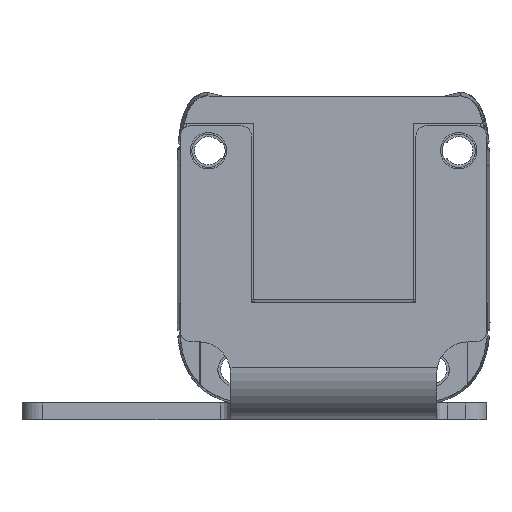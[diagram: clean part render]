
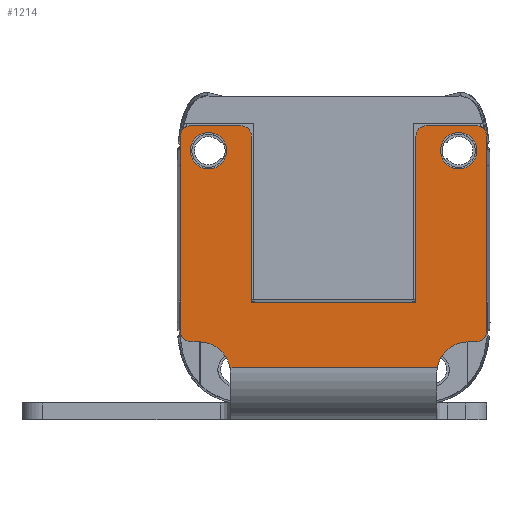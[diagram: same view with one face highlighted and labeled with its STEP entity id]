
A CAD part, front view. The second image highlights one B-rep face of the part: STEP entity #1214.
In plain terms, the highlighted planar face has unit normal (0, -1, 0).
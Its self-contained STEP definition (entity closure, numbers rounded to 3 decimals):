
#1214=ADVANCED_FACE('',(#1904,#1905,#1906),#1492,.T.);
#1492=PLANE('',#9447);
#1797=CIRCLE('',#9437,3.);
#1798=CIRCLE('',#9438,1.);
#1799=CIRCLE('',#9439,1.);
#1800=CIRCLE('',#9440,1.);
#1801=CIRCLE('',#9441,1.);
#1802=CIRCLE('',#9442,1.);
#1803=CIRCLE('',#9443,1.);
#1804=CIRCLE('',#9444,3.);
#1805=CIRCLE('',#9445,1.75);
#1806=CIRCLE('',#9446,1.75);
#1904=FACE_BOUND('',#2370,.T.);
#1905=FACE_BOUND('',#2371,.T.);
#1906=FACE_BOUND('',#2372,.T.);
#2370=EDGE_LOOP('',(#4747,#4748,#4749,#4750,#4751,#4752,#4753,#4754,#4755,
#4756,#4757,#4758,#4759,#4760,#4761,#4762,#4763,#4764));
#2371=EDGE_LOOP('',(#4765));
#2372=EDGE_LOOP('',(#4766));
#4747=ORIENTED_EDGE('',*,*,#6984,.T.);
#4748=ORIENTED_EDGE('',*,*,#6985,.F.);
#4749=ORIENTED_EDGE('',*,*,#6986,.T.);
#4750=ORIENTED_EDGE('',*,*,#6987,.T.);
#4751=ORIENTED_EDGE('',*,*,#6988,.T.);
#4752=ORIENTED_EDGE('',*,*,#6989,.T.);
#4753=ORIENTED_EDGE('',*,*,#6990,.T.);
#4754=ORIENTED_EDGE('',*,*,#6991,.F.);
#4755=ORIENTED_EDGE('',*,*,#6992,.F.);
#4756=ORIENTED_EDGE('',*,*,#6993,.T.);
#4757=ORIENTED_EDGE('',*,*,#6994,.T.);
#4758=ORIENTED_EDGE('',*,*,#6995,.F.);
#4759=ORIENTED_EDGE('',*,*,#6996,.T.);
#4760=ORIENTED_EDGE('',*,*,#6997,.F.);
#4761=ORIENTED_EDGE('',*,*,#6998,.T.);
#4762=ORIENTED_EDGE('',*,*,#6999,.T.);
#4763=ORIENTED_EDGE('',*,*,#7000,.T.);
#4764=ORIENTED_EDGE('',*,*,#7001,.T.);
#4765=ORIENTED_EDGE('',*,*,#7002,.F.);
#4766=ORIENTED_EDGE('',*,*,#7003,.T.);
#5758=VERTEX_POINT('',#15443);
#5759=VERTEX_POINT('',#15444);
#5760=VERTEX_POINT('',#15446);
#5761=VERTEX_POINT('',#15448);
#5762=VERTEX_POINT('',#15450);
#5763=VERTEX_POINT('',#15452);
#5764=VERTEX_POINT('',#15454);
#5765=VERTEX_POINT('',#15456);
#5766=VERTEX_POINT('',#15458);
#5767=VERTEX_POINT('',#15460);
#5768=VERTEX_POINT('',#15462);
#5769=VERTEX_POINT('',#15464);
#5770=VERTEX_POINT('',#15466);
#5771=VERTEX_POINT('',#15468);
#5772=VERTEX_POINT('',#15470);
#5773=VERTEX_POINT('',#15472);
#5774=VERTEX_POINT('',#15474);
#5775=VERTEX_POINT('',#15476);
#5776=VERTEX_POINT('',#15479);
#5777=VERTEX_POINT('',#15481);
#6984=EDGE_CURVE('',#5758,#5759,#1797,.T.);
#6985=EDGE_CURVE('',#5760,#5759,#7863,.T.);
#6986=EDGE_CURVE('',#5760,#5761,#1798,.T.);
#6987=EDGE_CURVE('',#5761,#5762,#7864,.T.);
#6988=EDGE_CURVE('',#5762,#5763,#1799,.T.);
#6989=EDGE_CURVE('',#5763,#5764,#7865,.T.);
#6990=EDGE_CURVE('',#5764,#5765,#1800,.T.);
#6991=EDGE_CURVE('',#5766,#5765,#7866,.T.);
#6992=EDGE_CURVE('',#5767,#5766,#7867,.T.);
#6993=EDGE_CURVE('',#5767,#5768,#7868,.T.);
#6994=EDGE_CURVE('',#5768,#5769,#1801,.T.);
#6995=EDGE_CURVE('',#5770,#5769,#7869,.T.);
#6996=EDGE_CURVE('',#5770,#5771,#1802,.T.);
#6997=EDGE_CURVE('',#5772,#5771,#7870,.T.);
#6998=EDGE_CURVE('',#5772,#5773,#1803,.T.);
#6999=EDGE_CURVE('',#5773,#5774,#7871,.T.);
#7000=EDGE_CURVE('',#5774,#5775,#1804,.T.);
#7001=EDGE_CURVE('',#5775,#5758,#7872,.T.);
#7002=EDGE_CURVE('',#5776,#5776,#1805,.T.);
#7003=EDGE_CURVE('',#5777,#5777,#1806,.T.);
#7863=LINE('',#15445,#8719);
#7864=LINE('',#15449,#8720);
#7865=LINE('',#15453,#8721);
#7866=LINE('',#15457,#8722);
#7867=LINE('',#15459,#8723);
#7868=LINE('',#15461,#8724);
#7869=LINE('',#15465,#8725);
#7870=LINE('',#15469,#8726);
#7871=LINE('',#15473,#8727);
#7872=LINE('',#15477,#8728);
#8719=VECTOR('',#11638,1.);
#8720=VECTOR('',#11641,1.);
#8721=VECTOR('',#11644,1.);
#8722=VECTOR('',#11647,1.);
#8723=VECTOR('',#11648,1.);
#8724=VECTOR('',#11649,1.);
#8725=VECTOR('',#11652,1.);
#8726=VECTOR('',#11655,1.);
#8727=VECTOR('',#11658,1.);
#8728=VECTOR('',#11661,1.);
#9437=AXIS2_PLACEMENT_3D('',#15442,#11636,#11637);
#9438=AXIS2_PLACEMENT_3D('',#15447,#11639,#11640);
#9439=AXIS2_PLACEMENT_3D('',#15451,#11642,#11643);
#9440=AXIS2_PLACEMENT_3D('',#15455,#11645,#11646);
#9441=AXIS2_PLACEMENT_3D('',#15463,#11650,#11651);
#9442=AXIS2_PLACEMENT_3D('',#15467,#11653,#11654);
#9443=AXIS2_PLACEMENT_3D('',#15471,#11656,#11657);
#9444=AXIS2_PLACEMENT_3D('',#15475,#11659,#11660);
#9445=AXIS2_PLACEMENT_3D('',#15478,#11662,#11663);
#9446=AXIS2_PLACEMENT_3D('',#15480,#11664,#11665);
#9447=AXIS2_PLACEMENT_3D('',#15482,#11666,#11667);
#11636=DIRECTION('',(0.,1.,0.));
#11637=DIRECTION('',(0.,0.,1.));
#11638=DIRECTION('',(-1.,0.,0.));
#11639=DIRECTION('',(0.,-1.,0.));
#11640=DIRECTION('',(0.,0.,1.));
#11641=DIRECTION('',(0.,0.,1.));
#11642=DIRECTION('',(0.,-1.,0.));
#11643=DIRECTION('',(0.,0.,-1.));
#11644=DIRECTION('',(-1.,0.,0.));
#11645=DIRECTION('',(0.,-1.,0.));
#11646=DIRECTION('',(0.,0.,-1.));
#11647=DIRECTION('',(0.,0.,1.));
#11648=DIRECTION('',(1.,0.,0.));
#11649=DIRECTION('',(0.,0.,1.));
#11650=DIRECTION('',(0.,-1.,0.));
#11651=DIRECTION('',(0.,0.,1.));
#11652=DIRECTION('',(1.,0.,0.));
#11653=DIRECTION('',(0.,-1.,0.));
#11654=DIRECTION('',(0.,0.,1.));
#11655=DIRECTION('',(0.,0.,1.));
#11656=DIRECTION('',(0.,-1.,0.));
#11657=DIRECTION('',(0.,0.,1.));
#11658=DIRECTION('',(1.,0.,0.));
#11659=DIRECTION('',(0.,1.,0.));
#11660=DIRECTION('',(0.,0.,1.));
#11661=DIRECTION('',(1.,0.,0.));
#11662=DIRECTION('',(0.,-1.,0.));
#11663=DIRECTION('',(0.,0.,1.));
#11664=DIRECTION('',(0.,1.,0.));
#11665=DIRECTION('',(0.,0.,-1.));
#11666=DIRECTION('',(0.,-1.,0.));
#11667=DIRECTION('',(-1.,0.,0.));
#15442=CARTESIAN_POINT('',(12.89,105.8,-139.533));
#15443=CARTESIAN_POINT('',(9.939,105.8,-138.994));
#15444=CARTESIAN_POINT('',(12.89,105.8,-136.533));
#15445=CARTESIAN_POINT('',(-7.89,105.8,-136.533));
#15446=CARTESIAN_POINT('',(13.69,105.8,-136.533));
#15447=CARTESIAN_POINT('',(13.69,105.8,-135.533));
#15448=CARTESIAN_POINT('',(14.69,105.8,-135.533));
#15449=CARTESIAN_POINT('',(14.69,105.8,-115.6));
#15450=CARTESIAN_POINT('',(14.69,105.8,-116.8));
#15451=CARTESIAN_POINT('',(13.69,105.8,-116.8));
#15452=CARTESIAN_POINT('',(13.69,105.8,-115.8));
#15453=CARTESIAN_POINT('',(7.89,105.8,-115.8));
#15454=CARTESIAN_POINT('',(8.89,105.8,-115.8));
#15455=CARTESIAN_POINT('',(8.89,105.8,-116.8));
#15456=CARTESIAN_POINT('',(7.89,105.8,-116.8));
#15457=CARTESIAN_POINT('',(7.89,105.8,-115.6));
#15458=CARTESIAN_POINT('',(7.89,105.8,-132.733));
#15459=CARTESIAN_POINT('',(-9.89,105.8,-132.733));
#15460=CARTESIAN_POINT('',(-7.89,105.8,-132.733));
#15461=CARTESIAN_POINT('',(-7.89,105.8,-115.6));
#15462=CARTESIAN_POINT('',(-7.89,105.8,-116.8));
#15463=CARTESIAN_POINT('',(-8.89,105.8,-116.8));
#15464=CARTESIAN_POINT('',(-8.89,105.8,-115.8));
#15465=CARTESIAN_POINT('',(-7.89,105.8,-115.8));
#15466=CARTESIAN_POINT('',(-13.69,105.8,-115.8));
#15467=CARTESIAN_POINT('',(-13.69,105.8,-116.8));
#15468=CARTESIAN_POINT('',(-14.69,105.8,-116.8));
#15469=CARTESIAN_POINT('',(-14.69,105.8,-115.6));
#15470=CARTESIAN_POINT('',(-14.69,105.8,-135.533));
#15471=CARTESIAN_POINT('',(-13.69,105.8,-135.533));
#15472=CARTESIAN_POINT('',(-13.69,105.8,-136.533));
#15473=CARTESIAN_POINT('',(-7.89,105.8,-136.533));
#15474=CARTESIAN_POINT('',(-12.89,105.8,-136.533));
#15475=CARTESIAN_POINT('',(-12.89,105.8,-139.533));
#15476=CARTESIAN_POINT('',(-9.939,105.8,-138.994));
#15477=CARTESIAN_POINT('',(-9.89,105.8,-138.994));
#15478=CARTESIAN_POINT('',(-12.,105.8,-118.2));
#15479=CARTESIAN_POINT('',(-12.,105.8,-116.45));
#15480=CARTESIAN_POINT('',(12.,105.8,-118.2));
#15481=CARTESIAN_POINT('',(12.,105.8,-119.95));
#15482=CARTESIAN_POINT('',(-9.89,105.8,-142.394));
